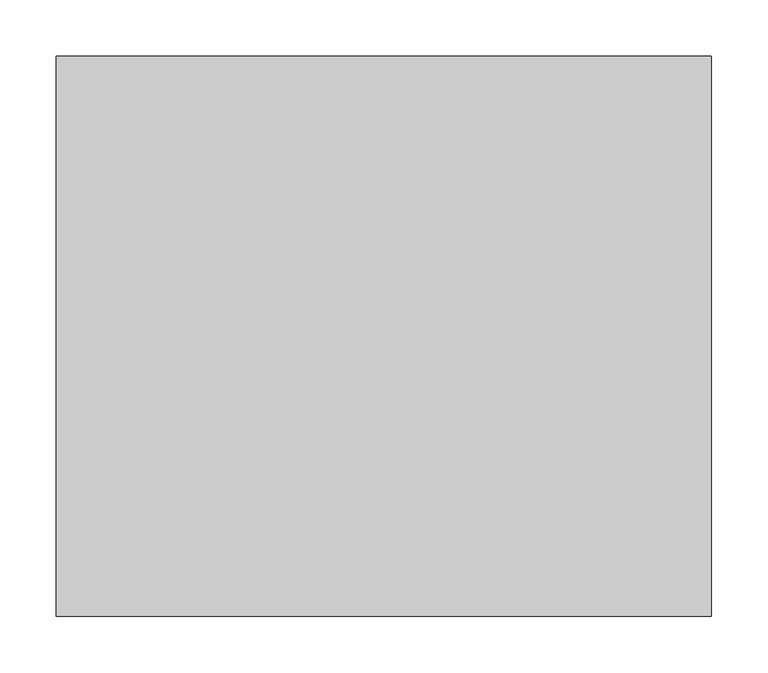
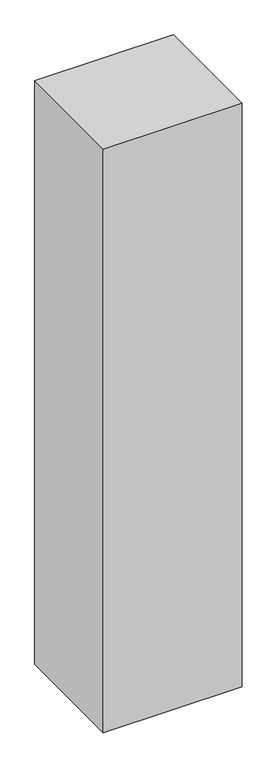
"""IFC4 building model written with IfcOpenShell, lengths in millimetres: furniture geometry, Fu_шкаф 1-с : Шкаф 1-створчатый."""

import ifcopenshell
import ifcopenshell.guid

model = None  # the IFC model being written
_history = None  # IfcOwnerHistory: only IFC2X3 demands one
_inside = {}  # id of a spatial element -> (the spatial element, [elements in it])
_under = {}  # id of a project, library or spatial element -> (it, [spatial elements below it])
_declared = {}  # id of a project -> (the project, [libraries it declares])
_typed = {}  # id of a type object -> (the type object, [elements of that type])
_made_of = {}  # id of a material, layer set ... -> (it, [elements and type objects made of it])


def new_model(schema):
    """Start an empty IFC model of exactly this schema.

    Asked for "IFC4X3", IfcOpenShell would pick the latest addendum, in which some entities
    have other attributes; the version numbers below select the first issue.
    IFC2X3 requires an IfcOwnerHistory on every rooted entity: one is made here for all.
    """
    global model, _history
    if schema == "IFC4X3":
        model = ifcopenshell.file(schema_version=(4, 3, 0, 0))
    else:
        model = ifcopenshell.file(schema=schema)
    _inside.clear()
    _under.clear()
    _declared.clear()
    _typed.clear()
    _made_of.clear()
    _history = None
    if model.schema == "IFC2X3":
        org = make("IfcOrganization", Name="unknown")
        user = make(
            "IfcPersonAndOrganization",
            ThePerson=make("IfcPerson", FamilyName="unknown"),
            TheOrganization=org,
        )
        app = make(
            "IfcApplication",
            ApplicationDeveloper=org,
            Version="unknown",
            ApplicationFullName="unknown",
            ApplicationIdentifier="unknown",
        )
        _history = make(
            "IfcOwnerHistory",
            OwningUser=user,
            OwningApplication=app,
            ChangeAction="ADDED",
            CreationDate=0,
        )
    return model


def make(cls, **values):
    """One entity of the class cls with the attributes given. An attribute that is None is left unset."""
    return model.create_entity(
        cls, **{name: value for name, value in values.items() if value is not None}
    )


def rooted(cls, **values):
    """An entity with a GlobalId (a new one), such as an element, a storey or a relation."""
    return make(cls, GlobalId=ifcopenshell.guid.new(), OwnerHistory=_history, **values)


def si_unit(unit_type, name, prefix=None):
    """IfcSIUnit, for example si_unit("LENGTHUNIT", "METRE", prefix="MILLI")."""
    return make("IfcSIUnit", UnitType=unit_type, Prefix=prefix, Name=name)


def assignment(units):
    """IfcUnitAssignment: the units of a project."""
    return None if units is None else make("IfcUnitAssignment", Units=units)


def point(xyz):
    """IfcCartesianPoint."""
    return None if xyz is None else make("IfcCartesianPoint", Coordinates=xyz)


def direction(xyz):
    """IfcDirection."""
    return None if xyz is None else make("IfcDirection", DirectionRatios=xyz)


def frame(location, z_axis=None, x_axis=None):
    """IfcAxis2Placement3D, a coordinate frame: its origin and axes. An axis left out is left unset."""
    return make(
        "IfcAxis2Placement3D",
        Location=point(location),
        Axis=direction(z_axis),
        RefDirection=direction(x_axis),
    )


def origin():
    """The frame at (0, 0, 0) with its axes left unset."""
    return frame((0.0, 0.0, 0.0))


def origin_with_axes():
    """The frame at (0, 0, 0) with the z axis (0, 0, 1) and the x axis (1, 0, 0) written out."""
    return frame((0.0, 0.0, 0.0), z_axis=(0.0, 0.0, 1.0), x_axis=(1.0, 0.0, 0.0))


def place(relative_to, where):
    """IfcLocalPlacement: puts the frame where relative to a parent placement (None: the world)."""
    return make(
        "IfcLocalPlacement", PlacementRelTo=relative_to, RelativePlacement=where
    )


def context(
    kind, dimensions, precision=None, world=None, true_north=None, identifier=None
):
    """IfcGeometricRepresentationContext, for example the 3D "Model" context."""
    return make(
        "IfcGeometricRepresentationContext",
        ContextIdentifier=identifier,
        ContextType=kind,
        CoordinateSpaceDimension=dimensions,
        Precision=precision,
        WorldCoordinateSystem=world,
        TrueNorth=true_north,
    )


def project(units=None, contexts=None):
    """IfcProject with its units and contexts."""
    return rooted(
        "IfcProject",
        Name="project",
        RepresentationContexts=contexts,
        UnitsInContext=assignment(units),
    )


def spatial(cls, under=None, at=None, **own):
    """A site, building, storey or space (cls), placed at a placement, below another one or the project."""
    s = rooted(cls, ObjectPlacement=at, **own)
    if under is not None:
        _under.setdefault(under.id(), (under, []))[1].append(s)
    return s


def polyline(points):
    """IfcPolyline through the points."""
    return make("IfcPolyline", Points=[point(p) for p in points])


def outline(outer, holes=None, kind="AREA"):
    """IfcArbitraryClosedProfileDef: a profile drawn as a closed curve; with holes, ...WithVoids."""
    if holes is None:
        return make("IfcArbitraryClosedProfileDef", ProfileType=kind, OuterCurve=outer)
    return make(
        "IfcArbitraryProfileDefWithVoids",
        ProfileType=kind,
        OuterCurve=outer,
        InnerCurves=holes,
    )


def extrude(swept, where, along, depth):
    """IfcExtrudedAreaSolid: the profile swept, set in the frame where, extruded along a direction by depth."""
    return make(
        "IfcExtrudedAreaSolid",
        SweptArea=swept,
        Position=where,
        ExtrudedDirection=direction(along),
        Depth=depth,
    )


def shape(context_of_items, identifier, shape_type, items):
    """IfcShapeRepresentation: the items that make up one representation, for example the "Body"."""
    return make(
        "IfcShapeRepresentation",
        ContextOfItems=context_of_items,
        RepresentationIdentifier=identifier,
        RepresentationType=shape_type,
        Items=items,
    )


def source(mapping_origin, context_of_items, identifier, shape_type, items):
    """IfcRepresentationMap: a shape defined once, which mapped items show again and again."""
    return make(
        "IfcRepresentationMap",
        MappingOrigin=mapping_origin,
        MappedRepresentation=shape(context_of_items, identifier, shape_type, items),
    )


def transform(
    local_origin,
    x_axis=None,
    y_axis=None,
    z_axis=None,
    scale=None,
    scale2=None,
    scale3=None,
    uniform=True,
):
    """IfcCartesianTransformationOperator3D, or its non-uniform kind. x_axis, y_axis, z_axis: its Axis1, 2, 3."""
    if uniform:
        return make(
            "IfcCartesianTransformationOperator3D",
            Axis1=direction(x_axis),
            Axis2=direction(y_axis),
            LocalOrigin=point(local_origin),
            Scale=scale,
            Axis3=direction(z_axis),
        )
    return make(
        "IfcCartesianTransformationOperator3DnonUniform",
        Axis1=direction(x_axis),
        Axis2=direction(y_axis),
        LocalOrigin=point(local_origin),
        Scale=scale,
        Axis3=direction(z_axis),
        Scale2=scale2,
        Scale3=scale3,
    )


def mapped(mapping_source, mapping_target):
    """IfcMappedItem: shows the shape of a source again, moved by a transform."""
    return make(
        "IfcMappedItem", MappingSource=mapping_source, MappingTarget=mapping_target
    )


def made_of(thing, what):
    """Note that an element or type object is made of a material, layer set ...; save() writes the relation."""
    if what is not None:
        _made_of.setdefault(what.id(), (what, []))[1].append(thing)
    return thing


def element(
    cls,
    number,
    at=None,
    inside=None,
    cuts=None,
    type_object=None,
    material=None,
    context=None,
    identifier="Body",
    shape_type=None,
    held_by="IfcProductDefinitionShape",
    body=None,
    shapes=None,
    **own,
):
    """One element of the class cls, such as IfcWall. Its Tag is "e" and its number.

    at: its placement. inside: the storey or other place that contains it. cuts: it is an
    opening in that element (IfcRelVoidsElement). A single representation is given by context,
    identifier, shape_type and body (its items); several are given by shapes. held_by: the class
    of the entity that holds the representations. save() writes the other relations.
    """
    e = rooted(cls, Tag="e%d" % number, ObjectPlacement=at, **own)
    if body is not None:
        shapes = [shape(context, identifier, shape_type, body)]
    if shapes is not None:
        e.Representation = make(held_by, Representations=shapes)
    if inside is not None:
        _inside.setdefault(inside.id(), (inside, []))[1].append(e)
    if cuts is not None:
        rooted(
            "IfcRelVoidsElement", RelatingBuildingElement=cuts, RelatedOpeningElement=e
        )
    if type_object is not None:
        _typed.setdefault(type_object.id(), (type_object, []))[1].append(e)
    return made_of(e, material)


def aggregate(whole, parts):
    """IfcRelAggregates: a whole, such as a stair, and the parts it consists of."""
    return rooted("IfcRelAggregates", RelatingObject=whole, RelatedObjects=parts)


def save(model, path):
    """Write the relations noted so far, then the file.

    IfcRelAggregates (storeys below a building ...), IfcRelContainedInSpatialStructure (elements
    in a storey), IfcRelDefinesByType, IfcRelAssociatesMaterial and IfcRelDeclares: one each for
    every whole, place, type object, material and project.
    """
    for whole, parts in _under.values():
        aggregate(whole, parts)
    for where, things in _inside.values():
        rooted(
            "IfcRelContainedInSpatialStructure",
            RelatedElements=things,
            RelatingStructure=where,
        )
    for kind, things in _typed.values():
        rooted("IfcRelDefinesByType", RelatedObjects=things, RelatingType=kind)
    for what, things in _made_of.values():
        rooted("IfcRelAssociatesMaterial", RelatedObjects=things, RelatingMaterial=what)
    for by, libraries in _declared.values():
        rooted("IfcRelDeclares", RelatingContext=by, RelatedDefinitions=libraries)
    model.write(path)


def furniture_2c33f32e(model_context):
    return source(origin(), model_context, "Body", "SweptSolid", [
        extrude(outline(polyline([(585.0, 0.0), (0.0, 0.0), (0.0, 500.0), (585.0, 500.0), (585.0, 0.0)])), origin_with_axes(), (0.0, 0.0, 1.0), 2600.0),
    ])


if __name__ == "__main__":
    model = new_model("IFC4")
    model_context = context("Model", 3, world=origin())
    ifc_project = project(units=[si_unit("LENGTHUNIT", "METRE", prefix="MILLI")], contexts=[model_context])
    site = spatial("IfcSite", under=ifc_project)
    building = spatial("IfcBuilding", under=site)
    placement = place(None, origin())
    furniture_shape = furniture_2c33f32e(model_context)
    element("IfcFurniture", 1, ObjectType="Fu_шкаф 1-с : Шкаф 1-створчатый", at=placement, inside=building, context=model_context, shape_type="MappedRepresentation", body=[
        mapped(furniture_shape, transform((0.0, 0.0, 0.0), x_axis=(1.0, 0.0, 0.0), y_axis=(0.0, 1.0, 0.0), z_axis=(0.0, 0.0, 1.0))),
    ])
    save(model, "model.ifc")
